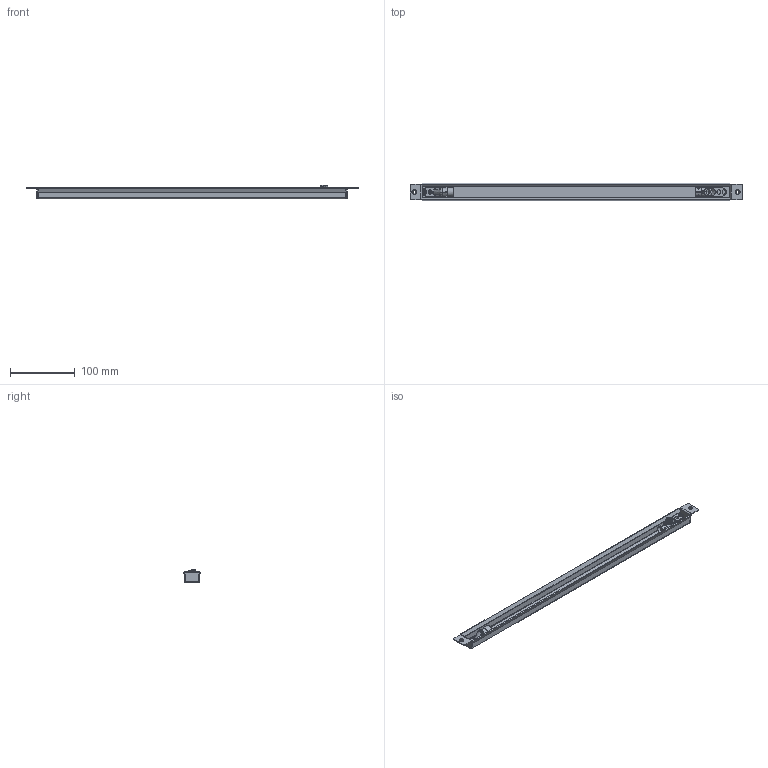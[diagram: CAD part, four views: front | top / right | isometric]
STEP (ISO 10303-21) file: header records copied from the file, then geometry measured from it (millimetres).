
FILE_DESCRIPTION((''),'2;1');
FILE_NAME('S:\Projekte\00 00 Datenarchiv\00.50- Kabelübergänge\M 11 91-03.stp','2011-08-19T08:24:21',('jsuarez'),(''),'Autodesk Inventor 2012','Autodesk Inventor 2012','');
FILE_SCHEMA(('AUTOMOTIVE_DESIGN { 1 0 10303 214 1 1 1 1 }'));
Length unit declared in the file: millimetre
Products named in the file (3): M 11 91-03; 9100014- Einbaukasten 511b
Assembly tree (2 placements, depth 2):
  M 11 91-03
    9100014- Einbaukasten 511b
    M 11 91-03
Bounding box: 511 x 27.01 x 21.18 mm (x, y, z)
Volume: 53864.4 mm3; surface area: 96076.7 mm2
Topology: 2 solids, 2 shells, 231 faces, 679 edges, 423 vertices
Faces by surface type: plane 98, bspline 60, cylinder 52, cone 12, revolution 4, sphere 3, torus 2
Full cylindrical faces by diameter (mm): 1.6 x2, 3.242 x2, 4.5 x2, 4.7 x2
Entity records: 33579 total; most frequent: CARTESIAN_POINT 27868, ORIENTED_EDGE 1278, DIRECTION 898, EDGE_CURVE 639, VERTEX_POINT 411, AXIS2_PLACEMENT_3D 336, EDGE_LOOP 292, B_SPLINE_CURVE_WITH_KNOTS 249
